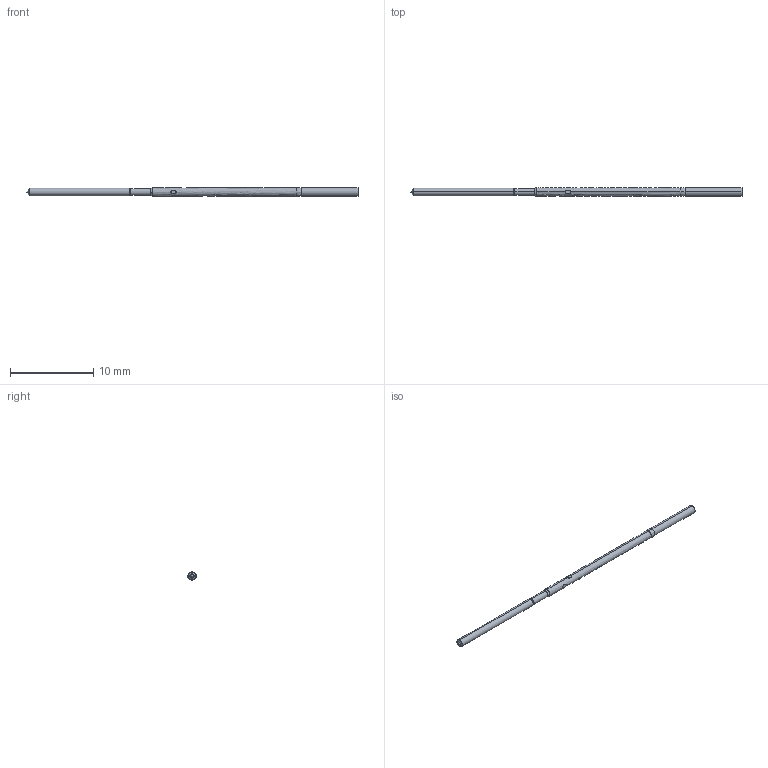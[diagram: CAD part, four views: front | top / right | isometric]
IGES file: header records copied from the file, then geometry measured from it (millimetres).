
Start section: SolidWorks IGES file using analytic representation for surfaces
Global section: file name: Z:\probe solid model mockups\Solidworks models\DER -050 IGS files\DER-050B Full.IGS; native system: SolidWorks 2006 by SolidWorks Corporation; preprocessor: SolidWorks 2006 by SolidWorks Corporation; author: tsakatani; date: 071218.084354; units: inch
Bounding box: 39.77 x 1.07 x 1.08 mm (x, y, z)
Surface area: 177.6 mm2 (no closed solid volume)
Topology: 0 solids, 0 shells, 38 faces, 346 edges, 344 vertices
Faces by surface type: revolution 31, bspline 7
